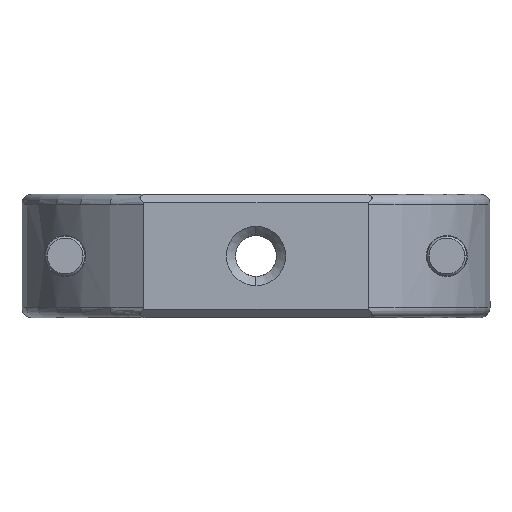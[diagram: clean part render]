
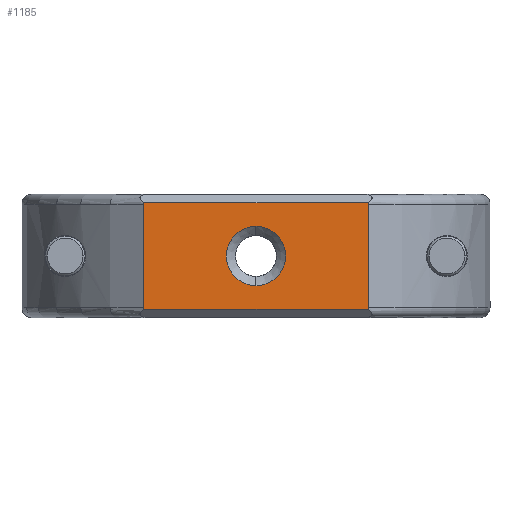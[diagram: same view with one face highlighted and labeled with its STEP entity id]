
A CAD part, front view. The second image highlights one B-rep face of the part: STEP entity #1185.
In plain terms, the highlighted planar face has unit normal (0, -1, 0).
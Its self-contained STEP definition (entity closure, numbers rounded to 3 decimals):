
#42 = CARTESIAN_POINT ( 'NONE',  ( 13.684, -25., 13.8 ) ) ;
#141 = ORIENTED_EDGE ( 'NONE', *, *, #3449, .F. ) ;
#166 = LINE ( 'NONE', #1334, #3044 ) ;
#276 = CARTESIAN_POINT ( 'NONE',  ( -13.684, -25., 13.8 ) ) ;
#311 = CARTESIAN_POINT ( 'NONE',  ( 13.66, -25., 13.968 ) ) ;
#348 = CARTESIAN_POINT ( 'NONE',  ( -13.649, -25., 14. ) ) ;
#396 = FACE_OUTER_BOUND ( 'NONE', #3360, .T. ) ;
#436 = CARTESIAN_POINT ( 'NONE',  ( 13.684, -25., 1.2 ) ) ;
#449 = CARTESIAN_POINT ( 'NONE',  ( 13.684, -25., 1.166 ) ) ;
#472 = ORIENTED_EDGE ( 'NONE', *, *, #2279, .F. ) ;
#480 = PLANE ( 'NONE',  #1798 ) ;
#633 = VERTEX_POINT ( 'NONE', #3918 ) ;
#641 = EDGE_CURVE ( 'NONE', #3879, #3828, #1470, .T. ) ;
#673 = B_SPLINE_CURVE_WITH_KNOTS ( 'NONE', 3,
 ( #436, #449, #1367, #2590, #1684, #2304 ),
 .UNSPECIFIED., .F., .F.,
 ( 4, 2, 4 ),
 ( 0.007, 0.007, 0.007 ),
 .UNSPECIFIED. ) ;
#681 = EDGE_LOOP ( 'NONE', ( #3633, #3268 ) ) ;
#727 = EDGE_CURVE ( 'NONE', #633, #1227, #166, .T. ) ;
#855 = B_SPLINE_CURVE_WITH_KNOTS ( 'NONE', 3,
 ( #973, #311, #3712, #3410, #1263, #42 ),
 .UNSPECIFIED., .F., .F.,
 ( 4, 2, 4 ),
 ( 0.007, 0.007, 0.007 ),
 .UNSPECIFIED. ) ;
#966 = DIRECTION ( 'NONE',  ( 0., -1., 0. ) ) ;
#973 = CARTESIAN_POINT ( 'NONE',  ( 13.649, -25., 14. ) ) ;
#999 = CARTESIAN_POINT ( 'NONE',  ( 13.684, -25., 15. ) ) ;
#1000 = CARTESIAN_POINT ( 'NONE',  ( -13.66, -25., 13.968 ) ) ;
#1034 = LINE ( 'NONE', #3164, #3034 ) ;
#1096 = VERTEX_POINT ( 'NONE', #2124 ) ;
#1117 = DIRECTION ( 'NONE',  ( 0., -1., 0. ) ) ;
#1133 = FACE_BOUND ( 'NONE', #681, .T. ) ;
#1134 = CARTESIAN_POINT ( 'NONE',  ( 13.649, -25., 1. ) ) ;
#1135 = CARTESIAN_POINT ( 'NONE',  ( 13.684, -25., 1.2 ) ) ;
#1185 = ADVANCED_FACE ( 'NONE', ( #396, #1133 ), #480, .T. ) ;
#1190 = VECTOR ( 'NONE', #3424, 1000. ) ;
#1200 = CARTESIAN_POINT ( 'NONE',  ( 0., -25., 7.5 ) ) ;
#1227 = VERTEX_POINT ( 'NONE', #1134 ) ;
#1263 = CARTESIAN_POINT ( 'NONE',  ( 13.684, -25., 13.834 ) ) ;
#1278 = VERTEX_POINT ( 'NONE', #2983 ) ;
#1285 = CARTESIAN_POINT ( 'NONE',  ( -13.669, -25., 1.065 ) ) ;
#1334 = CARTESIAN_POINT ( 'NONE',  ( 13.684, -25., 1. ) ) ;
#1340 = DIRECTION ( 'NONE',  ( 0., 0., -1. ) ) ;
#1367 = CARTESIAN_POINT ( 'NONE',  ( 13.681, -25., 1.132 ) ) ;
#1449 = VERTEX_POINT ( 'NONE', #2741 ) ;
#1470 = LINE ( 'NONE', #999, #1190 ) ;
#1557 = CARTESIAN_POINT ( 'NONE',  ( -13.649, -25., 1. ) ) ;
#1679 = EDGE_CURVE ( 'NONE', #2299, #1278, #1785, .T. ) ;
#1684 = CARTESIAN_POINT ( 'NONE',  ( 13.66, -25., 1.032 ) ) ;
#1693 = CARTESIAN_POINT ( 'NONE',  ( 0., -25., 7.5 ) ) ;
#1697 = DIRECTION ( 'NONE',  ( 0., 0., -1. ) ) ;
#1754 = CARTESIAN_POINT ( 'NONE',  ( 13.649, -25., 14. ) ) ;
#1785 = LINE ( 'NONE', #2127, #3885 ) ;
#1798 = AXIS2_PLACEMENT_3D ( 'NONE', #3510, #1117, #2907 ) ;
#1830 = CARTESIAN_POINT ( 'NONE',  ( -13.681, -25., 13.868 ) ) ;
#1999 = DIRECTION ( 'NONE',  ( 0., -1., 0. ) ) ;
#2018 = CARTESIAN_POINT ( 'NONE',  ( 13.684, -25., 13.8 ) ) ;
#2064 = ORIENTED_EDGE ( 'NONE', *, *, #727, .T. ) ;
#2124 = CARTESIAN_POINT ( 'NONE',  ( 0., -25., 3.89 ) ) ;
#2127 = CARTESIAN_POINT ( 'NONE',  ( 13.684, -25., 14. ) ) ;
#2156 = CARTESIAN_POINT ( 'NONE',  ( -13.66, -25., 1.032 ) ) ;
#2167 = EDGE_CURVE ( 'NONE', #2993, #1449, #1034, .T. ) ;
#2222 = CIRCLE ( 'NONE', #3000, 3.61 ) ;
#2279 = EDGE_CURVE ( 'NONE', #633, #1449, #3795, .T. ) ;
#2299 = VERTEX_POINT ( 'NONE', #1754 ) ;
#2304 = CARTESIAN_POINT ( 'NONE',  ( 13.649, -25., 1. ) ) ;
#2330 = DIRECTION ( 'NONE',  ( 0., 0., -1. ) ) ;
#2375 = AXIS2_PLACEMENT_3D ( 'NONE', #1200, #966, #1697 ) ;
#2377 = ORIENTED_EDGE ( 'NONE', *, *, #3472, .F. ) ;
#2479 = EDGE_CURVE ( 'NONE', #3828, #1227, #673, .T. ) ;
#2567 = EDGE_CURVE ( 'NONE', #3688, #1096, #2927, .T. ) ;
#2590 = CARTESIAN_POINT ( 'NONE',  ( 13.669, -25., 1.065 ) ) ;
#2628 = B_SPLINE_CURVE_WITH_KNOTS ( 'NONE', 3,
 ( #276, #3045, #1830, #2821, #1000, #348 ),
 .UNSPECIFIED., .F., .F.,
 ( 4, 2, 4 ),
 ( 0.013, 0.014, 0.014 ),
 .UNSPECIFIED. ) ;
#2741 = CARTESIAN_POINT ( 'NONE',  ( -13.684, -25., 1.2 ) ) ;
#2765 = CARTESIAN_POINT ( 'NONE',  ( -13.684, -25., 1.166 ) ) ;
#2768 = CARTESIAN_POINT ( 'NONE',  ( 0., -25., 11.11 ) ) ;
#2821 = CARTESIAN_POINT ( 'NONE',  ( -13.669, -25., 13.935 ) ) ;
#2867 = CARTESIAN_POINT ( 'NONE',  ( -13.684, -25., 13.8 ) ) ;
#2907 = DIRECTION ( 'NONE',  ( 0., 0., -1. ) ) ;
#2927 = CIRCLE ( 'NONE', #2375, 3.61 ) ;
#2936 = EDGE_CURVE ( 'NONE', #1096, #3688, #2222, .T. ) ;
#2983 = CARTESIAN_POINT ( 'NONE',  ( -13.649, -25., 14. ) ) ;
#2993 = VERTEX_POINT ( 'NONE', #2867 ) ;
#3000 = AXIS2_PLACEMENT_3D ( 'NONE', #1693, #1999, #2330 ) ;
#3034 = VECTOR ( 'NONE', #1340, 1000. ) ;
#3044 = VECTOR ( 'NONE', #3451, 1000. ) ;
#3045 = CARTESIAN_POINT ( 'NONE',  ( -13.684, -25., 13.834 ) ) ;
#3118 = CARTESIAN_POINT ( 'NONE',  ( -13.681, -25., 1.132 ) ) ;
#3164 = CARTESIAN_POINT ( 'NONE',  ( -13.684, -25., 15. ) ) ;
#3268 = ORIENTED_EDGE ( 'NONE', *, *, #2936, .F. ) ;
#3360 = EDGE_LOOP ( 'NONE', ( #2377, #3467, #141, #3850, #472, #2064, #3627, #3744 ) ) ;
#3410 = CARTESIAN_POINT ( 'NONE',  ( 13.681, -25., 13.869 ) ) ;
#3424 = DIRECTION ( 'NONE',  ( 0., 0., -1. ) ) ;
#3449 = EDGE_CURVE ( 'NONE', #2993, #1278, #2628, .T. ) ;
#3451 = DIRECTION ( 'NONE',  ( 1., 0., 0. ) ) ;
#3467 = ORIENTED_EDGE ( 'NONE', *, *, #1679, .T. ) ;
#3472 = EDGE_CURVE ( 'NONE', #2299, #3879, #855, .T. ) ;
#3510 = CARTESIAN_POINT ( 'NONE',  ( 13.684, -25., 15. ) ) ;
#3618 = DIRECTION ( 'NONE',  ( -1., 0., 0. ) ) ;
#3627 = ORIENTED_EDGE ( 'NONE', *, *, #2479, .F. ) ;
#3633 = ORIENTED_EDGE ( 'NONE', *, *, #2567, .F. ) ;
#3672 = CARTESIAN_POINT ( 'NONE',  ( -13.684, -25., 1.2 ) ) ;
#3688 = VERTEX_POINT ( 'NONE', #2768 ) ;
#3712 = CARTESIAN_POINT ( 'NONE',  ( 13.669, -25., 13.935 ) ) ;
#3744 = ORIENTED_EDGE ( 'NONE', *, *, #641, .F. ) ;
#3795 = B_SPLINE_CURVE_WITH_KNOTS ( 'NONE', 3,
 ( #1557, #2156, #1285, #3118, #2765, #3672 ),
 .UNSPECIFIED., .F., .F.,
 ( 4, 2, 4 ),
 ( 0.001, 0.001, 0.001 ),
 .UNSPECIFIED. ) ;
#3828 = VERTEX_POINT ( 'NONE', #1135 ) ;
#3850 = ORIENTED_EDGE ( 'NONE', *, *, #2167, .T. ) ;
#3879 = VERTEX_POINT ( 'NONE', #2018 ) ;
#3885 = VECTOR ( 'NONE', #3618, 1000. ) ;
#3918 = CARTESIAN_POINT ( 'NONE',  ( -13.649, -25., 1. ) ) ;
